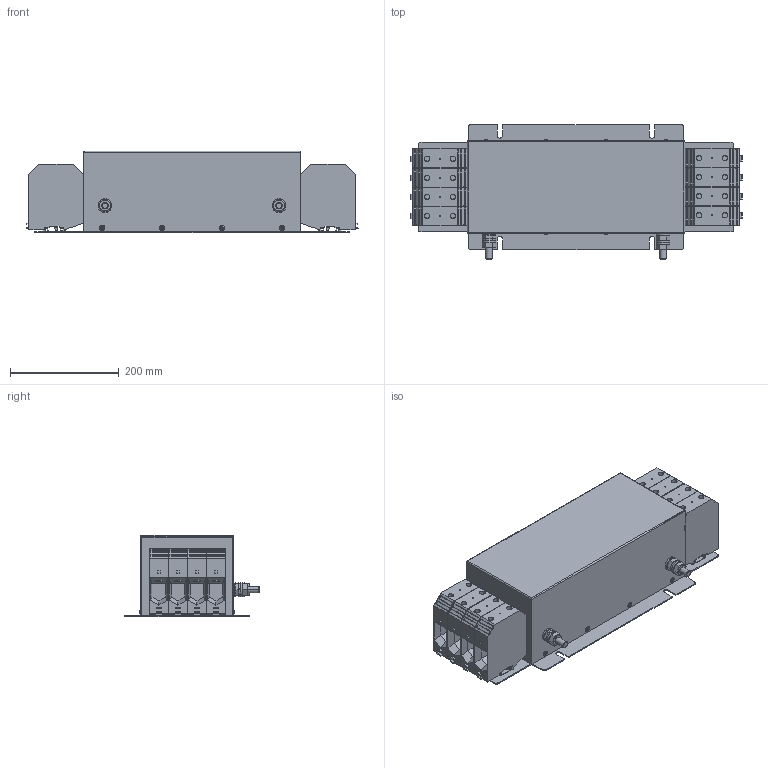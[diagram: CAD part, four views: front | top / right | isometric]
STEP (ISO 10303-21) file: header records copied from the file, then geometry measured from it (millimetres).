
FILE_DESCRIPTION (( 'STEP AP214' ), '1' );
FILE_NAME ('NF-4-250-PPR.STEP', '2019-05-08T06:56:28', ( '' ), ( '' ), 'SwSTEP 2.0', 'SolidWorks 2019', '' );
FILE_SCHEMA (( 'AUTOMOTIVE_DESIGN' ));
Length unit declared in the file: millimetre
Products named in the file (18): NF-4-250-PPR_Oberteil; pxc_3010217_07_UKH-240_3D.stp; mutter_din_6915_m12; din_en_iso_4017_m12x50_a; Niete_5_4; 07310-1225371; Hutschiene; NF-4-250-PPR_Bodenplatte; din_6902-a_m12-200hv; NF-4-250-PPR; UKH_240-select.stp
Assembly tree (40 placements, depth 3):
  NF-4-250-PPR
    NF-4-250-PPR_Bodenplatte
    NF-4-250-PPR_Oberteil
    din_en_iso_4017_m12x50_a  x2
    din_6902-a_m12-200hv
    mutter_din_6915_m12  x4
    07310-1225371  x5
    pxc_3010217_07_UKH-240_3D.stp
      UKH_240-select.stp
    pxc_3010217_07_UKH-240_3D.stp
      UKH_240-select.stp
    pxc_3010217_07_UKH-240_3D.stp
      UKH_240-select.stp
    pxc_3010217_07_UKH-240_3D.stp
      UKH_240-select.stp
    Hutschiene  x2
    pxc_3010217_07_UKH-240_3D.stp
      UKH_240-select.stp
    pxc_3010217_07_UKH-240_3D.stp
      UKH_240-select.stp
    pxc_3010217_07_UKH-240_3D.stp
      UKH_240-select.stp
    pxc_3010217_07_UKH-240_3D.stp
      UKH_240-select.stp
    Niete_5_4  x8
Bounding box: 610.4 x 248 x 150 mm (x, y, z)
Volume: 3331961.6 mm3; surface area: 1220933.6 mm2
Topology: 32 solids, 32 shells, 1772 faces, 4495 edges, 2958 vertices
Faces by surface type: plane 1399, cylinder 285, cone 68, torus 20
Entity records: 13245 total; most frequent: CARTESIAN_POINT 2511, DIRECTION 1981, ORIENTED_EDGE 1902, EDGE_CURVE 951, VECTOR 697, LINE 697, AXIS2_PLACEMENT_3D 642, VERTEX_POINT 622
